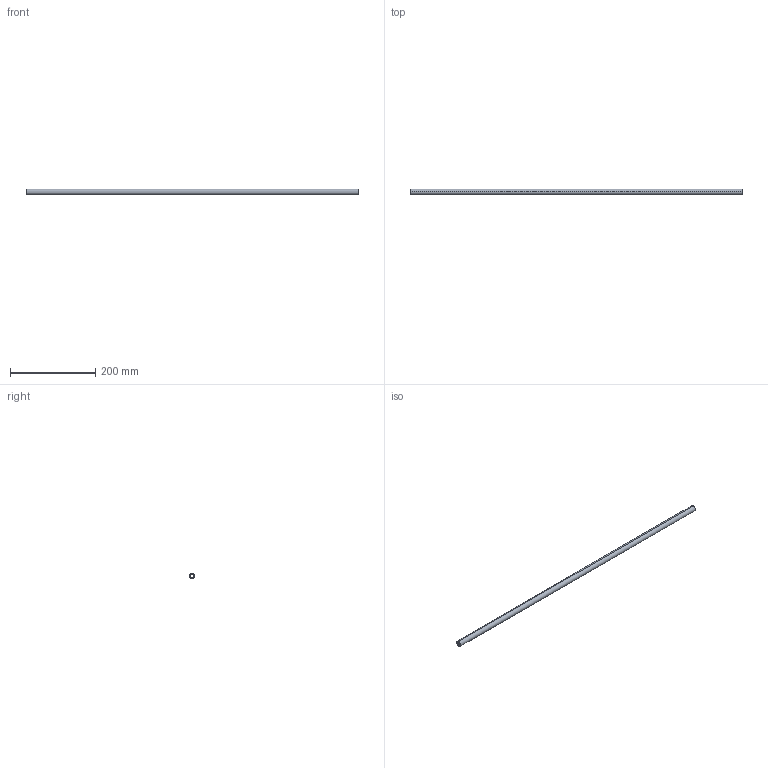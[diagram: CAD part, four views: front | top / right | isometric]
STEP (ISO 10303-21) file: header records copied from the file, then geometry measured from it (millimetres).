
FILE_DESCRIPTION (( 'STEP AP214' ), '1' );
FILE_NAME ('SyncronisationsstangeNova_Pro_KAB_0900_KS16.step', '2009-11-24T08:53:17', ( 'Grass' ), ( 'Grass GmbH' ), 'SwSTEP 2.0', 'SolidWorks 2009', '' );
FILE_SCHEMA (( 'AUTOMOTIVE_DESIGN' ));
Length unit declared in the file: millimetre
Products named in the file (1): SyncronisationsstangeNova_Pro_KAB_0900_KS16
Bounding box: 779 x 14 x 14 mm (x, y, z)
Volume: 84233 mm3; surface area: 54328.1 mm2
Topology: 1 solids, 1 shells, 15 faces, 39 edges, 26 vertices
Faces by surface type: cylinder 11, plane 4
Entity records: 513 total; most frequent: DIRECTION 93, CARTESIAN_POINT 81, ORIENTED_EDGE 78, EDGE_CURVE 39, AXIS2_PLACEMENT_3D 38, VERTEX_POINT 26, CIRCLE 22, VECTOR 17
